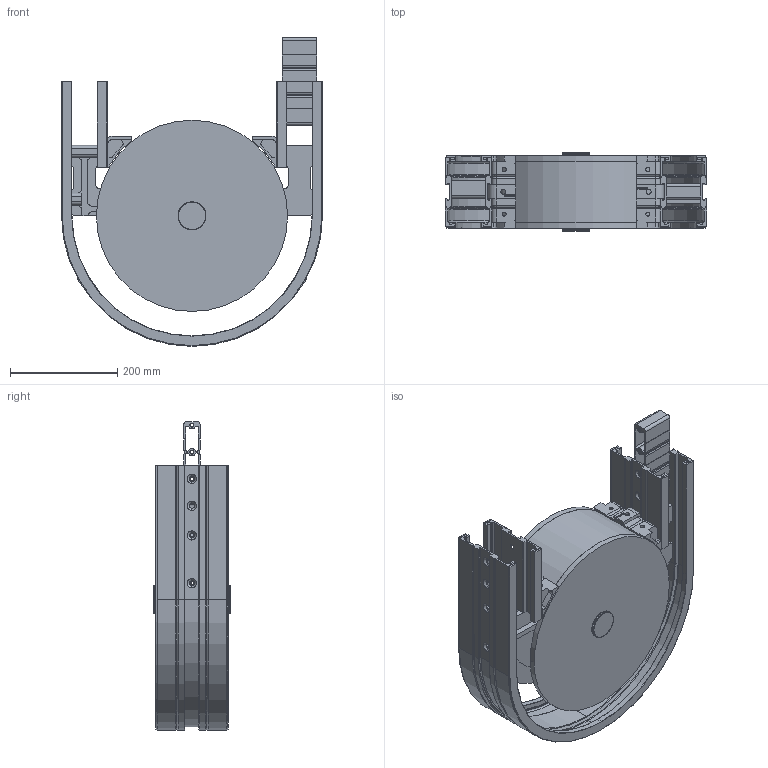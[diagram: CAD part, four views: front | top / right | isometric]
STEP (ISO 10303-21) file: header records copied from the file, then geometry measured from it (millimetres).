
FILE_DESCRIPTION (( 'STEP AP203' ), '1' );
FILE_NAME ('R2C200-180.STEP', '2008-12-02T09:29:23', ( 'faber' ), ( '' ), 'SwSTEP 2.0', 'SolidWorks 2008', '' );
FILE_SCHEMA (( 'CONFIG_CONTROL_DESIGN' ));
Length unit declared in the file: millimetre
Products named in the file (1): R2C200-180
Bounding box: 486 x 145.2 x 574.75 mm (x, y, z)
Surface area: 1408955.5 mm2 (no closed solid volume)
Topology: 0 solids, 188 shells, 1047 faces, 3823 edges, 2910 vertices
Faces by surface type: plane 566, cylinder 321, torus 122, cone 30, bspline 8
Entity records: 45822 total; most frequent: CARTESIAN_POINT 14279, DIRECTION 6420, ORIENTED_EDGE 5679, EDGE_CURVE 3823, VERTEX_POINT 2910, AXIS2_PLACEMENT_3D 2236, VECTOR 1948, LINE 1948
